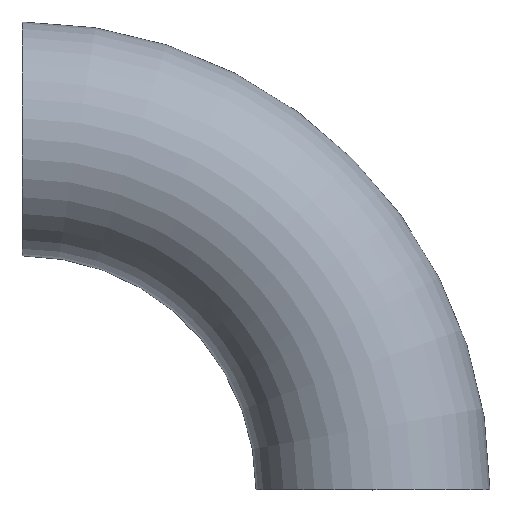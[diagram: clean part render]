
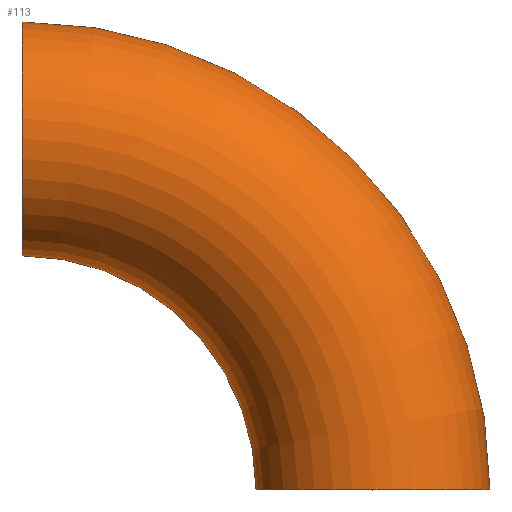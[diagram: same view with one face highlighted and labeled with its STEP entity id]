
A CAD part, top view. The second image highlights one B-rep face of the part: STEP entity #113.
In plain terms, the highlighted toroidal (fillet/blend) face has major radius 95.25 mm and minor radius 31.75 mm.
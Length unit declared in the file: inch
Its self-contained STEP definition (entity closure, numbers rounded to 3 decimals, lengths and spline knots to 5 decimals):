
#5 = EDGE_LOOP ( 'NONE', ( #145, #152, #125, #57 ) ) ;
#15 = AXIS2_PLACEMENT_3D ( 'NONE', #226, #155, #29 ) ;
#19 = TOROIDAL_SURFACE ( 'NONE', #15, 3.75, 1.25 ) ;
#29 = DIRECTION ( 'NONE',  ( -1., 0., 0. ) ) ;
#35 = DIRECTION ( 'NONE',  ( -1., 0., 0. ) ) ;
#57 = ORIENTED_EDGE ( 'NONE', *, *, #142, .T. ) ;
#62 = DIRECTION ( 'NONE',  ( 0., 0., -1. ) ) ;
#105 = VERTEX_POINT ( 'NONE', #204 ) ;
#112 = VERTEX_POINT ( 'NONE', #203 ) ;
#113 = ADVANCED_FACE ( 'NONE', ( #149 ), #19, .T. ) ;
#119 = CIRCLE ( 'NONE', #224, 1.25 ) ;
#125 = ORIENTED_EDGE ( 'NONE', *, *, #139, .T. ) ;
#139 = EDGE_CURVE ( 'NONE', #219, #105, #207, .T. ) ;
#142 = EDGE_CURVE ( 'NONE', #105, #242, #119, .T. ) ;
#145 = ORIENTED_EDGE ( 'NONE', *, *, #158, .F. ) ;
#149 = FACE_OUTER_BOUND ( 'NONE', #5, .T. ) ;
#150 = CIRCLE ( 'NONE', #217, 1.25 ) ;
#152 = ORIENTED_EDGE ( 'NONE', *, *, #170, .F. ) ;
#155 = DIRECTION ( 'NONE',  ( 0., 0., -1. ) ) ;
#158 = EDGE_CURVE ( 'NONE', #112, #242, #220, .T. ) ;
#162 = CARTESIAN_POINT ( 'NONE',  ( 0., 0., 0. ) ) ;
#170 = EDGE_CURVE ( 'NONE', #219, #112, #150, .T. ) ;
#189 = DIRECTION ( 'NONE',  ( 0., 0., 1. ) ) ;
#190 = DIRECTION ( 'NONE',  ( -1., 0., 0. ) ) ;
#203 = CARTESIAN_POINT ( 'NONE',  ( 0., 5., 0. ) ) ;
#204 = CARTESIAN_POINT ( 'NONE',  ( 2.5, 0., 0. ) ) ;
#207 = CIRCLE ( 'NONE', #235, 2.5 ) ;
#208 = CARTESIAN_POINT ( 'NONE',  ( 5., 0., 0. ) ) ;
#212 = CARTESIAN_POINT ( 'NONE',  ( 0., 2.5, 0. ) ) ;
#214 = CARTESIAN_POINT ( 'NONE',  ( 0., 3.75, 0. ) ) ;
#217 = AXIS2_PLACEMENT_3D ( 'NONE', #214, #190, #189 ) ;
#218 = AXIS2_PLACEMENT_3D ( 'NONE', #237, #234, #233 ) ;
#219 = VERTEX_POINT ( 'NONE', #212 ) ;
#220 = CIRCLE ( 'NONE', #218, 5. ) ;
#224 = AXIS2_PLACEMENT_3D ( 'NONE', #256, #254, #253 ) ;
#226 = CARTESIAN_POINT ( 'NONE',  ( 0., 0., 0. ) ) ;
#233 = DIRECTION ( 'NONE',  ( -1., 0., 0. ) ) ;
#234 = DIRECTION ( 'NONE',  ( 0., 0., -1. ) ) ;
#235 = AXIS2_PLACEMENT_3D ( 'NONE', #162, #62, #35 ) ;
#237 = CARTESIAN_POINT ( 'NONE',  ( 0., 0., 0. ) ) ;
#242 = VERTEX_POINT ( 'NONE', #208 ) ;
#253 = DIRECTION ( 'NONE',  ( 0., 0., 1. ) ) ;
#254 = DIRECTION ( 'NONE',  ( 0., 1., 0. ) ) ;
#256 = CARTESIAN_POINT ( 'NONE',  ( 3.75, 0., 0. ) ) ;
